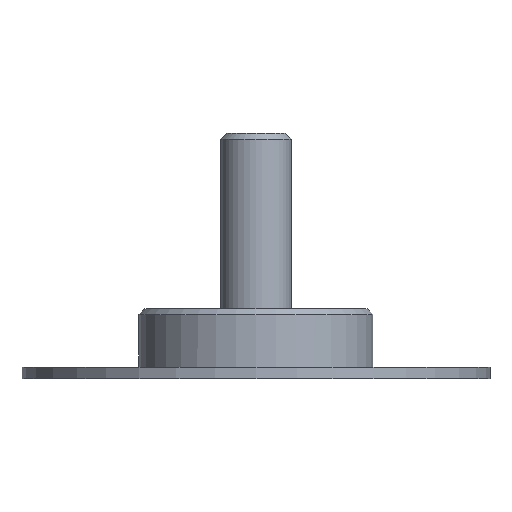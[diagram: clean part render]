
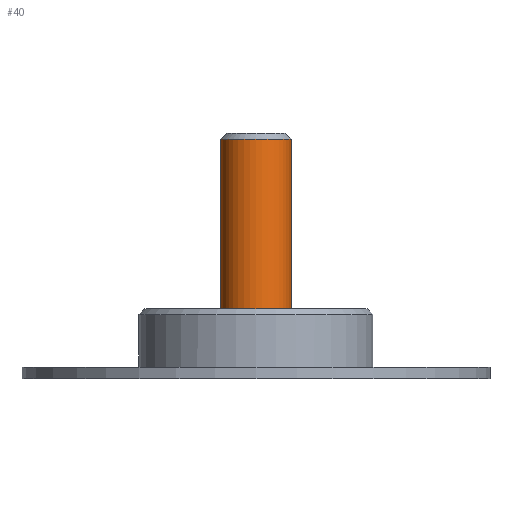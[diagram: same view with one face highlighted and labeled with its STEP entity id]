
A CAD part, front view. The second image highlights one B-rep face of the part: STEP entity #40.
In plain terms, the highlighted cylindrical face has radius 3 mm (diameter 6 mm), a partial arc.
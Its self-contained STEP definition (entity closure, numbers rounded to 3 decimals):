
#40 = ADVANCED_FACE ( 'NONE', ( #6971 ), #6424, .T. ) ;
#133 = CARTESIAN_POINT ( 'NONE',  ( 3., 0., 15. ) ) ;
#367 = CIRCLE ( 'NONE', #1054, 3. ) ;
#599 = CARTESIAN_POINT ( 'NONE',  ( 3., 0., -0.25 ) ) ;
#717 = LINE ( 'NONE', #4097, #5207 ) ;
#843 = ORIENTED_EDGE ( 'NONE', *, *, #2093, .F. ) ;
#934 = VERTEX_POINT ( 'NONE', #6832 ) ;
#1054 = AXIS2_PLACEMENT_3D ( 'NONE', #1728, #1178, #6837 ) ;
#1178 = DIRECTION ( 'NONE',  ( 0., 0., -1. ) ) ;
#1203 = DIRECTION ( 'NONE',  ( 0., 0., 1. ) ) ;
#1277 = DIRECTION ( 'NONE',  ( 0., 0., 1. ) ) ;
#1728 = CARTESIAN_POINT ( 'NONE',  ( 0., 0., 14.5 ) ) ;
#1776 = VERTEX_POINT ( 'NONE', #5300 ) ;
#1927 = AXIS2_PLACEMENT_3D ( 'NONE', #3971, #1203, #5321 ) ;
#2093 = EDGE_CURVE ( 'NONE', #934, #1776, #717, .T. ) ;
#2413 = CIRCLE ( 'NONE', #1927, 3. ) ;
#3805 = ORIENTED_EDGE ( 'NONE', *, *, #4445, .T. ) ;
#3836 = VERTEX_POINT ( 'NONE', #7310 ) ;
#3945 = VECTOR ( 'NONE', #1277, 1000. ) ;
#3971 = CARTESIAN_POINT ( 'NONE',  ( 0., 0., -0.25 ) ) ;
#3993 = ORIENTED_EDGE ( 'NONE', *, *, #6594, .T. ) ;
#4097 = CARTESIAN_POINT ( 'NONE',  ( -3., 0., 15. ) ) ;
#4340 = ORIENTED_EDGE ( 'NONE', *, *, #4861, .T. ) ;
#4445 = EDGE_CURVE ( 'NONE', #934, #5427, #2413, .T. ) ;
#4570 = DIRECTION ( 'NONE',  ( 0., 0., 1. ) ) ;
#4861 = EDGE_CURVE ( 'NONE', #3836, #1776, #367, .T. ) ;
#4883 = DIRECTION ( 'NONE',  ( 0., 0., 1. ) ) ;
#5126 = AXIS2_PLACEMENT_3D ( 'NONE', #5920, #4883, #7031 ) ;
#5207 = VECTOR ( 'NONE', #4570, 1000. ) ;
#5300 = CARTESIAN_POINT ( 'NONE',  ( -3., 0., 14.5 ) ) ;
#5321 = DIRECTION ( 'NONE',  ( 1., 0., 0. ) ) ;
#5427 = VERTEX_POINT ( 'NONE', #599 ) ;
#5920 = CARTESIAN_POINT ( 'NONE',  ( 0., 0., 15. ) ) ;
#5988 = EDGE_LOOP ( 'NONE', ( #843, #3805, #3993, #4340 ) ) ;
#6424 = CYLINDRICAL_SURFACE ( 'NONE', #5126, 3. ) ;
#6594 = EDGE_CURVE ( 'NONE', #5427, #3836, #6881, .T. ) ;
#6832 = CARTESIAN_POINT ( 'NONE',  ( -3., 0., -0.25 ) ) ;
#6837 = DIRECTION ( 'NONE',  ( -1., 0., 0. ) ) ;
#6881 = LINE ( 'NONE', #133, #3945 ) ;
#6971 = FACE_OUTER_BOUND ( 'NONE', #5988, .T. ) ;
#7031 = DIRECTION ( 'NONE',  ( 1., 0., 0. ) ) ;
#7310 = CARTESIAN_POINT ( 'NONE',  ( 3., 0., 14.5 ) ) ;
